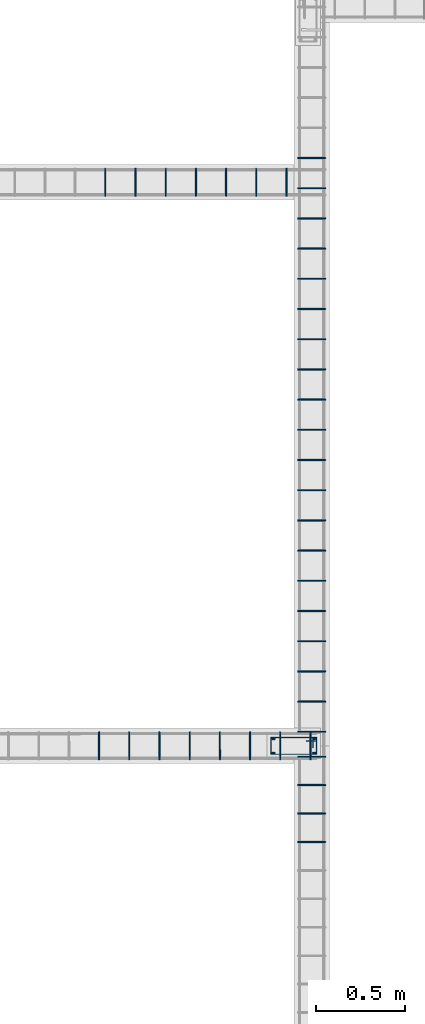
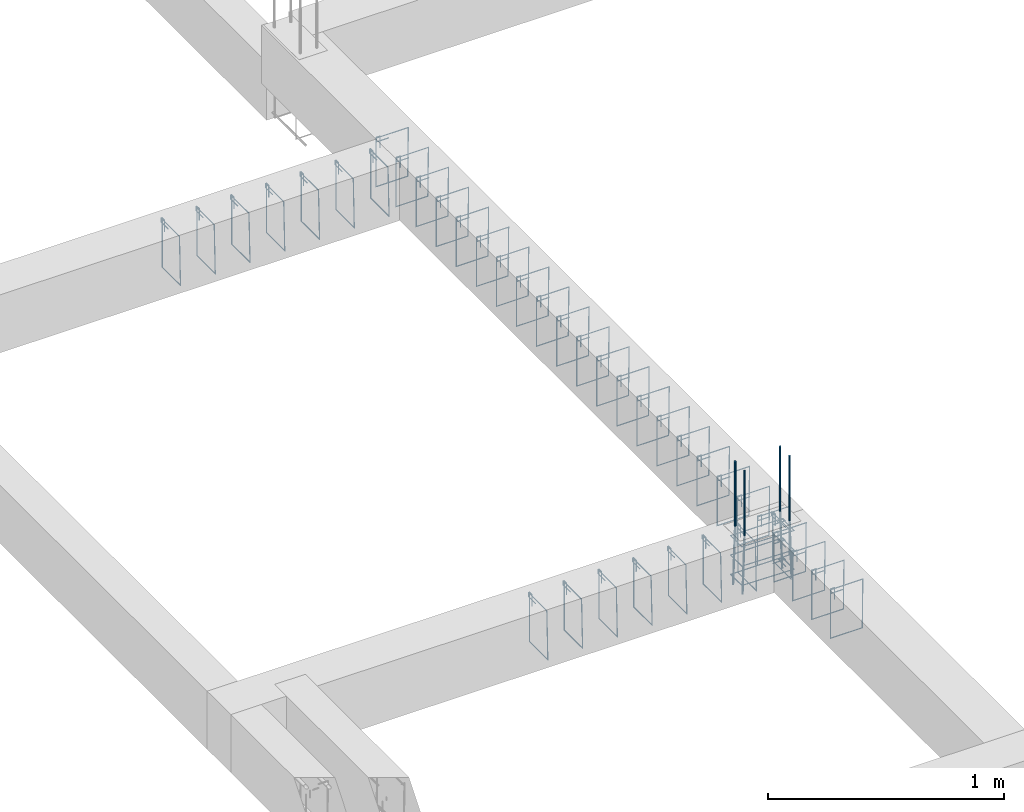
# One storey, part 134 of 150: 46 reinforcing bars.
"""IFC4 building model written with IfcOpenShell, lengths in centimetres."""

from ifc_helpers import new_model, entity, si_unit, derived_unit, frame, origin_with_axes, place, context, project, spatial, source, transform, mapped, element, save


model = new_model("IFC4")

# Units and contexts
model_context = context("Model", 3, precision=1e-05, world=origin_with_axes(), identifier="Body")
ifc_project = project(units=[si_unit("LENGTHUNIT", "METRE", prefix="CENTI"), si_unit("VOLUMEUNIT", "CUBIC_METRE"), si_unit("AREAUNIT", "SQUARE_METRE"), si_unit("POWERUNIT", "WATT"), si_unit("LUMINOUSFLUXUNIT", "LUMEN"), si_unit("ELECTRICCURRENTUNIT", "AMPERE"), si_unit("PRESSUREUNIT", "PASCAL", prefix="KILO"), si_unit("MASSUNIT", "GRAM", prefix="KILO"), si_unit("PLANEANGLEUNIT", "RADIAN"), derived_unit("VOLUMETRICFLOWRATEUNIT", [(si_unit("LENGTHUNIT", "METRE"), 3), (si_unit("TIMEUNIT", "SECOND"), -1)])], contexts=[model_context])

# Site, building, storey
site_placement = place(None, frame((-4000.0, 0.0, 0.0), z_axis=(0.0, 0.0, 1.0), x_axis=(1.0, 0.0, 0.0)))
site = spatial("IfcSite", under=ifc_project, at=site_placement, Name="PADRÃO")
building_placement = place(site_placement, frame((0.0, 0.0, -14.0)))
building = spatial("IfcBuilding", under=site, at=building_placement, Name="CRECHE PRÉ-ESCOLA TIPO 2")
placement = place(building_placement, origin_with_axes())
storey_placement = place(placement, frame((0.0, 0.0, 30.0), z_axis=(0.0, 0.0, 1.0), x_axis=(1.0, 0.0, 0.0)))
storey = spatial("IfcBuildingStorey", under=building, at=storey_placement, Name="VIGA BALDRAME", CompositionType="ELEMENT", Elevation=16.0)

# Reinforcing bars
shared_shape_1 = source(origin_with_axes(), model_context, "Body", "AdvancedSweptSolid", [
    entity("IfcSweptDiskSolid", entity("IfcCompositeCurve", [entity("IfcCompositeCurveSegment", "CONTINUOUS", True, entity("IfcPolyline", [entity("IfcCartesianPoint", [4.25, 21.75, 0.0]), entity("IfcCartesianPoint", [4.25, 27.75, 0.0])])), entity("IfcCompositeCurveSegment", "CONTINUOUS", True, entity("IfcPolyline", [entity("IfcCartesianPoint", [4.25, 27.75, 0.0]), entity("IfcCartesianPoint", [2.25, 27.75, 0.0])])), entity("IfcCompositeCurveSegment", "CONTINUOUS", True, entity("IfcPolyline", [entity("IfcCartesianPoint", [2.25, 27.75, 0.0]), entity("IfcCartesianPoint", [2.25, 2.25, 0.0])])), entity("IfcCompositeCurveSegment", "CONTINUOUS", True, entity("IfcPolyline", [entity("IfcCartesianPoint", [2.25, 2.25, 0.0]), entity("IfcCartesianPoint", [11.75, 2.25, 0.0])])), entity("IfcCompositeCurveSegment", "CONTINUOUS", True, entity("IfcPolyline", [entity("IfcCartesianPoint", [11.75, 2.25, 0.0]), entity("IfcCartesianPoint", [11.75, 27.75, -0.5])])), entity("IfcCompositeCurveSegment", "CONTINUOUS", True, entity("IfcPolyline", [entity("IfcCartesianPoint", [11.75, 27.75, -0.5]), entity("IfcCartesianPoint", [2.25, 27.75, -0.5])])), entity("IfcCompositeCurveSegment", "CONTINUOUS", True, entity("IfcPolyline", [entity("IfcCartesianPoint", [2.25, 27.75, -0.5]), entity("IfcCartesianPoint", [2.25, 25.75, -0.5])])), entity("IfcCompositeCurveSegment", "CONTINUOUS", True, entity("IfcPolyline", [entity("IfcCartesianPoint", [2.25, 25.75, -0.5]), entity("IfcCartesianPoint", [8.25, 25.75, -0.5])]))], False), 0.25),
])
for number, where, z_axis, x_axis, name in (
    (1, (2499.5, 3674.75, -15.0), (0.0, 0.0, 1.0), (0.0, -1.0, 0.0), "P34 - Estribo"),
    (2, (2499.5, 3674.75, -25.0), (0.0, 0.0, 1.0), (0.0, -1.0, 0.0), "P34 - Estribo"),
    (3, (2499.5, 3674.75, -5.0), (0.0, 0.0, 1.0), (0.0, -1.0, 0.0), "P34 - Estribo"),
):
    element("IfcReinforcingBar", number, at=place(storey_placement, frame(where, z_axis=z_axis, x_axis=x_axis)), inside=storey, Name=name, BarLength=0.0, CrossSectionArea=1.9634954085e-05, NominalDiameter=0.5, PredefinedType="MAIN", context=model_context, shape_type="MappedRepresentation", body=[
        mapped(shared_shape_1, transform((0.0, 0.0, 0.0), scale=1.0)),
    ])
shared_shape_2 = source(origin_with_axes(), model_context, "Body", "AdvancedSweptSolid", [
    entity("IfcSweptDiskSolid", entity("IfcCompositeCurve", [entity("IfcCompositeCurveSegment", "CONTINUOUS", True, entity("IfcPolyline", [entity("IfcCartesianPoint", [2.0, -6.0, 0.0]), entity("IfcCartesianPoint", [2.0, 0.0, 0.0])])), entity("IfcCompositeCurveSegment", "CONTINUOUS", True, entity("IfcPolyline", [entity("IfcCartesianPoint", [2.0, 0.0, 0.0]), entity("IfcCartesianPoint", [0.0, 0.0, 0.0])])), entity("IfcCompositeCurveSegment", "CONTINUOUS", True, entity("IfcPolyline", [entity("IfcCartesianPoint", [0.0, 0.0, 0.0]), entity("IfcCartesianPoint", [0.0, -25.5, 0.0])])), entity("IfcCompositeCurveSegment", "CONTINUOUS", True, entity("IfcPolyline", [entity("IfcCartesianPoint", [0.0, -25.5, 0.0]), entity("IfcCartesianPoint", [15.5, -25.5, 0.0])])), entity("IfcCompositeCurveSegment", "CONTINUOUS", True, entity("IfcPolyline", [entity("IfcCartesianPoint", [15.5, -25.5, 0.0]), entity("IfcCartesianPoint", [15.5, 0.0, 0.5])])), entity("IfcCompositeCurveSegment", "CONTINUOUS", True, entity("IfcPolyline", [entity("IfcCartesianPoint", [15.5, 0.0, 0.5]), entity("IfcCartesianPoint", [0.0, 0.0, 0.5])])), entity("IfcCompositeCurveSegment", "CONTINUOUS", True, entity("IfcPolyline", [entity("IfcCartesianPoint", [0.0, 0.0, 0.5]), entity("IfcCartesianPoint", [0.0, -2.0, 0.5])])), entity("IfcCompositeCurveSegment", "CONTINUOUS", True, entity("IfcPolyline", [entity("IfcCartesianPoint", [0.0, -2.0, 0.5]), entity("IfcCartesianPoint", [6.0, -2.0, 0.5])]))], False), 0.25),
])
for number, where, z_axis, x_axis, name in (
    (4, (2524.12928903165, 3675.50227136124, -2.25), (-1.0, -9.222061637e-05, 0.0), (9.222061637e-05, -1.0, 0.0), "V109 - Estribo"),
    (5, (2507.12928910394, 3675.50070361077, -2.25), (-1.0, -9.222061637e-05, 0.0), (9.222061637e-05, -1.0, 0.0), "V109 - Estribo"),
    (6, (2490.12928917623, 3675.49913586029, -2.25), (-1.0, -9.222061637e-05, 0.0), (9.222061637e-05, -1.0, 0.0), "V109 - Estribo"),
    (7, (2473.12928924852, 3675.49756810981, -2.25), (-1.0, -9.222061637e-05, 0.0), (9.222061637e-05, -1.0, 0.0), "V109 - Estribo"),
    (8, (2456.12928932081, 3675.49600035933, -2.25), (-1.0, -9.222061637e-05, 0.0), (9.222061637e-05, -1.0, 0.0), "V109 - Estribo"),
    (9, (2439.1292893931, 3675.49443260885, -2.25), (-1.0, -9.222061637e-05, 0.0), (9.222061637e-05, -1.0, 0.0), "V109 - Estribo"),
    (10, (2405.12928953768, 3675.4912971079, -2.25), (-1.0, -9.222061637e-05, 0.0), (9.222061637e-05, -1.0, 0.0), "V109 - Estribo"),
    (11, (2422.12928946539, 3675.49286485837, -2.25), (-1.0, -9.222061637e-05, 0.0), (9.222061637e-05, -1.0, 0.0), "V109 - Estribo"),
):
    element("IfcReinforcingBar", number, at=place(storey_placement, frame(where, z_axis=z_axis, x_axis=x_axis)), inside=storey, Name=name, BarLength=0.0, CrossSectionArea=1.9634954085e-05, NominalDiameter=0.5, PredefinedType="MAIN", context=model_context, shape_type="MappedRepresentation", body=[
        mapped(shared_shape_2, transform((0.0, 0.0, 0.0), scale=1.0)),
    ])
shared_shape_3 = source(origin_with_axes(), model_context, "Body", "AdvancedSweptSolid", [
    entity("IfcSweptDiskSolid", entity("IfcCompositeCurve", [entity("IfcCompositeCurveSegment", "CONTINUOUS", True, entity("IfcPolyline", [entity("IfcCartesianPoint", [2.0, -6.0, 0.0]), entity("IfcCartesianPoint", [2.0, 0.0, 0.0])])), entity("IfcCompositeCurveSegment", "CONTINUOUS", True, entity("IfcPolyline", [entity("IfcCartesianPoint", [2.0, 0.0, 0.0]), entity("IfcCartesianPoint", [0.0, 0.0, 0.0])])), entity("IfcCompositeCurveSegment", "CONTINUOUS", True, entity("IfcPolyline", [entity("IfcCartesianPoint", [0.0, 0.0, 0.0]), entity("IfcCartesianPoint", [0.0, -25.5, 0.0])])), entity("IfcCompositeCurveSegment", "CONTINUOUS", True, entity("IfcPolyline", [entity("IfcCartesianPoint", [0.0, -25.5, 0.0]), entity("IfcCartesianPoint", [15.5, -25.5, 0.0])])), entity("IfcCompositeCurveSegment", "CONTINUOUS", True, entity("IfcPolyline", [entity("IfcCartesianPoint", [15.5, -25.5, 0.0]), entity("IfcCartesianPoint", [15.5, 0.0, 0.5])])), entity("IfcCompositeCurveSegment", "CONTINUOUS", True, entity("IfcPolyline", [entity("IfcCartesianPoint", [15.5, 0.0, 0.5]), entity("IfcCartesianPoint", [0.0, 0.0, 0.5])])), entity("IfcCompositeCurveSegment", "CONTINUOUS", True, entity("IfcPolyline", [entity("IfcCartesianPoint", [0.0, 0.0, 0.5]), entity("IfcCartesianPoint", [0.0, -2.0, 0.5])])), entity("IfcCompositeCurveSegment", "CONTINUOUS", True, entity("IfcPolyline", [entity("IfcCartesianPoint", [0.0, -2.0, 0.5]), entity("IfcCartesianPoint", [6.0, -2.0, 0.5])]))], False), 0.25),
])
for number, where, z_axis, x_axis, name in (
    (12, (2510.645, 3992.75, -2.25), (-1.0, 0.0, 0.0), (0.0, -1.0, 0.0), "V106 - Estribo"),
    (13, (2425.645, 3992.75, -2.25), (-1.0, 0.0, 0.0), (0.0, -1.0, 0.0), "V106 - Estribo"),
    (14, (2442.645, 3992.75, -2.25), (-1.0, 0.0, 0.0), (0.0, -1.0, 0.0), "V106 - Estribo"),
    (15, (2459.645, 3992.75, -2.25), (-1.0, 0.0, 0.0), (0.0, -1.0, 0.0), "V106 - Estribo"),
    (16, (2476.645, 3992.75, -2.25), (-1.0, 0.0, 0.0), (0.0, -1.0, 0.0), "V106 - Estribo"),
    (17, (2493.645, 3992.75, -2.25), (-1.0, 0.0, 0.0), (0.0, -1.0, 0.0), "V106 - Estribo"),
    (18, (2408.645, 3992.75, -2.25), (-1.0, 0.0, 0.0), (0.0, -1.0, 0.0), "V106 - Estribo"),
):
    element("IfcReinforcingBar", number, at=place(storey_placement, frame(where, z_axis=z_axis, x_axis=x_axis)), inside=storey, Name=name, BarLength=0.0, CrossSectionArea=1.9634954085e-05, NominalDiameter=0.5, PredefinedType="MAIN", context=model_context, shape_type="MappedRepresentation", body=[
        mapped(shared_shape_3, transform((0.0, 0.0, 0.0), scale=1.0)),
    ])
shared_shape_4 = source(origin_with_axes(), model_context, "Body", "AdvancedSweptSolid", [
    entity("IfcSweptDiskSolid", entity("IfcCompositeCurve", [entity("IfcCompositeCurveSegment", "CONTINUOUS", True, entity("IfcPolyline", [entity("IfcCartesianPoint", [2.0, -6.0, 0.0]), entity("IfcCartesianPoint", [2.0, 0.0, 0.0])])), entity("IfcCompositeCurveSegment", "CONTINUOUS", True, entity("IfcPolyline", [entity("IfcCartesianPoint", [2.0, 0.0, 0.0]), entity("IfcCartesianPoint", [0.0, 0.0, 0.0])])), entity("IfcCompositeCurveSegment", "CONTINUOUS", True, entity("IfcPolyline", [entity("IfcCartesianPoint", [0.0, 0.0, 0.0]), entity("IfcCartesianPoint", [0.0, -25.5, 0.0])])), entity("IfcCompositeCurveSegment", "CONTINUOUS", True, entity("IfcPolyline", [entity("IfcCartesianPoint", [0.0, -25.5, 0.0]), entity("IfcCartesianPoint", [15.5, -25.5, 0.0])])), entity("IfcCompositeCurveSegment", "CONTINUOUS", True, entity("IfcPolyline", [entity("IfcCartesianPoint", [15.5, -25.5, 0.0]), entity("IfcCartesianPoint", [15.5, 0.0, 0.5])])), entity("IfcCompositeCurveSegment", "CONTINUOUS", True, entity("IfcPolyline", [entity("IfcCartesianPoint", [15.5, 0.0, 0.5]), entity("IfcCartesianPoint", [0.0, 0.0, 0.5])])), entity("IfcCompositeCurveSegment", "CONTINUOUS", True, entity("IfcPolyline", [entity("IfcCartesianPoint", [0.0, 0.0, 0.5]), entity("IfcCartesianPoint", [0.0, -2.0, 0.5])])), entity("IfcCompositeCurveSegment", "CONTINUOUS", True, entity("IfcPolyline", [entity("IfcCartesianPoint", [0.0, -2.0, 0.5]), entity("IfcCartesianPoint", [6.0, -2.0, 0.5])]))], False), 0.25),
])
for number, where, z_axis, x_axis, name in (
    (19, (2516.78, 3661.885, -2.25), (0.0, -1.0, 0.0), (1.0, 0.0, 0.0), "V199 - Estribo"),
    (20, (2516.78, 3645.885, -2.25), (0.0, -1.0, 0.0), (1.0, 0.0, 0.0), "V199 - Estribo"),
    (21, (2516.78, 3629.885, -2.25), (0.0, -1.0, 0.0), (1.0, 0.0, 0.0), "V199 - Estribo"),
    (22, (2516.78, 3613.885, -2.25), (0.0, -1.0, 0.0), (1.0, 0.0, 0.0), "V199 - Estribo"),
):
    element("IfcReinforcingBar", number, at=place(storey_placement, frame(where, z_axis=z_axis, x_axis=x_axis)), inside=storey, Name=name, BarLength=0.0, CrossSectionArea=1.9634954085e-05, NominalDiameter=0.5, PredefinedType="MAIN", context=model_context, shape_type="MappedRepresentation", body=[
        mapped(shared_shape_4, transform((0.0, 0.0, 0.0), scale=1.0)),
    ])
shared_shape_5 = source(origin_with_axes(), model_context, "Body", "AdvancedSweptSolid", [
    entity("IfcSweptDiskSolid", entity("IfcCompositeCurve", [entity("IfcCompositeCurveSegment", "CONTINUOUS", True, entity("IfcPolyline", [entity("IfcCartesianPoint", [2.0, -6.0, 0.0]), entity("IfcCartesianPoint", [2.0, 0.0, 0.0])])), entity("IfcCompositeCurveSegment", "CONTINUOUS", True, entity("IfcPolyline", [entity("IfcCartesianPoint", [2.0, 0.0, 0.0]), entity("IfcCartesianPoint", [0.0, 0.0, 0.0])])), entity("IfcCompositeCurveSegment", "CONTINUOUS", True, entity("IfcPolyline", [entity("IfcCartesianPoint", [0.0, 0.0, 0.0]), entity("IfcCartesianPoint", [0.0, -25.5, 0.0])])), entity("IfcCompositeCurveSegment", "CONTINUOUS", True, entity("IfcPolyline", [entity("IfcCartesianPoint", [0.0, -25.5, 0.0]), entity("IfcCartesianPoint", [15.5, -25.5, 0.0])])), entity("IfcCompositeCurveSegment", "CONTINUOUS", True, entity("IfcPolyline", [entity("IfcCartesianPoint", [15.5, -25.5, 0.0]), entity("IfcCartesianPoint", [15.5, 0.0, 0.5])])), entity("IfcCompositeCurveSegment", "CONTINUOUS", True, entity("IfcPolyline", [entity("IfcCartesianPoint", [15.5, 0.0, 0.5]), entity("IfcCartesianPoint", [0.0, 0.0, 0.5])])), entity("IfcCompositeCurveSegment", "CONTINUOUS", True, entity("IfcPolyline", [entity("IfcCartesianPoint", [0.0, 0.0, 0.5]), entity("IfcCartesianPoint", [0.0, -2.0, 0.5])])), entity("IfcCompositeCurveSegment", "CONTINUOUS", True, entity("IfcPolyline", [entity("IfcCartesianPoint", [0.0, -2.0, 0.5]), entity("IfcCartesianPoint", [6.0, -2.0, 0.5])]))], False), 0.25),
])
for number, where, z_axis, x_axis, name in (
    (23, (2516.78, 3845.885, -2.25), (0.0, -1.0, 0.0), (1.0, 0.0, 0.0), "V199 - Estribo"),
    (24, (2516.78, 3828.885, -2.25), (0.0, -1.0, 0.0), (1.0, 0.0, 0.0), "V199 - Estribo"),
    (25, (2516.78, 3811.885, -2.25), (0.0, -1.0, 0.0), (1.0, 0.0, 0.0), "V199 - Estribo"),
    (26, (2516.78, 3794.885, -2.25), (0.0, -1.0, 0.0), (1.0, 0.0, 0.0), "V199 - Estribo"),
    (27, (2516.78, 3777.885, -2.25), (0.0, -1.0, 0.0), (1.0, 0.0, 0.0), "V199 - Estribo"),
    (28, (2516.78, 3760.885, -2.25), (0.0, -1.0, 0.0), (1.0, 0.0, 0.0), "V199 - Estribo"),
    (29, (2516.78, 3743.885, -2.25), (0.0, -1.0, 0.0), (1.0, 0.0, 0.0), "V199 - Estribo"),
    (30, (2516.78, 3726.885, -2.25), (0.0, -1.0, 0.0), (1.0, 0.0, 0.0), "V199 - Estribo"),
    (31, (2516.78, 3709.885, -2.25), (0.0, -1.0, 0.0), (1.0, 0.0, 0.0), "V199 - Estribo"),
    (32, (2516.78, 3692.885, -2.25), (0.0, -1.0, 0.0), (1.0, 0.0, 0.0), "V199 - Estribo"),
    (33, (2516.78, 3675.885, -2.25), (0.0, -1.0, 0.0), (1.0, 0.0, 0.0), "V199 - Estribo"),
    (34, (2516.78, 3896.885, -2.25), (0.0, -1.0, 0.0), (1.0, 0.0, 0.0), "V199 - Estribo"),
    (35, (2516.78, 3998.885, -2.25), (0.0, -1.0, 0.0), (1.0, 0.0, 0.0), "V199 - Estribo"),
    (36, (2516.78, 3981.885, -2.25), (0.0, -1.0, 0.0), (1.0, 0.0, 0.0), "V199 - Estribo"),
    (37, (2516.78, 3964.885, -2.25), (0.0, -1.0, 0.0), (1.0, 0.0, 0.0), "V199 - Estribo"),
    (38, (2516.78, 3947.885, -2.25), (0.0, -1.0, 0.0), (1.0, 0.0, 0.0), "V199 - Estribo"),
    (39, (2516.78, 3930.885, -2.25), (0.0, -1.0, 0.0), (1.0, 0.0, 0.0), "V199 - Estribo"),
    (40, (2516.78, 3913.885, -2.25), (0.0, -1.0, 0.0), (1.0, 0.0, 0.0), "V199 - Estribo"),
    (41, (2516.78, 3879.885, -2.25), (0.0, -1.0, 0.0), (1.0, 0.0, 0.0), "V199 - Estribo"),
    (42, (2516.78, 3862.885, -2.25), (0.0, -1.0, 0.0), (1.0, 0.0, 0.0), "V199 - Estribo"),
):
    element("IfcReinforcingBar", number, at=place(storey_placement, frame(where, z_axis=z_axis, x_axis=x_axis)), inside=storey, Name=name, BarLength=0.0, CrossSectionArea=1.9634954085e-05, NominalDiameter=0.5, PredefinedType="MAIN", context=model_context, shape_type="MappedRepresentation", body=[
        mapped(shared_shape_5, transform((0.0, 0.0, 0.0), scale=1.0)),
    ])
for number, where, z_axis, x_axis, name in (
    (43, (2525.99986122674, 3671.75, 33.3573001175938), (0.0, 0.0, 1.0), (1.0, 0.0, 0.0), "P34 - Longitudinal"),
    (44, (2525.99986122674, 3663.75, 33.3573001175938), (0.0, 0.0, 1.0), (1.0, 0.0, 0.0), "P34 - Longitudinal"),
):
    element("IfcReinforcingBar", number, at=place(storey_placement, frame(where, z_axis=z_axis, x_axis=x_axis)), inside=storey, Name=name, BarLength=0.0, CrossSectionArea=7.853981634e-05, NominalDiameter=1.0, PredefinedType="MAIN", context=model_context, shape_type="AdvancedSweptSolid", body=[
        entity("IfcSweptDiskSolid", entity("IfcCompositeCurve", [entity("IfcCompositeCurveSegment", "CONTINUOUS", True, entity("IfcPolyline", [entity("IfcCartesianPoint", [0.500138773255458, 0.0, -63.3573001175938]), entity("IfcCartesianPoint", [-0.499861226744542, 0.0, -33.3573001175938])])), entity("IfcCompositeCurveSegment", "CONTINUOUS", True, entity("IfcPolyline", [entity("IfcCartesianPoint", [-0.499861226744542, 0.0, -33.3573001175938]), entity("IfcCartesianPoint", [-0.499861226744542, 0.0, 0.0])]))], False), 0.5),
    ])
for number, where, z_axis, x_axis, name in (
    (45, (2503.00013877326, 3663.75, 33.3573001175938), (0.0, 0.0, 1.0), (1.0, 0.0, 0.0), "P34 - Longitudinal"),
    (46, (2503.00013877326, 3671.75, 33.3573001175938), (0.0, 0.0, 1.0), (1.0, 0.0, 0.0), "P34 - Longitudinal"),
):
    element("IfcReinforcingBar", number, at=place(storey_placement, frame(where, z_axis=z_axis, x_axis=x_axis)), inside=storey, Name=name, BarLength=0.0, CrossSectionArea=7.853981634e-05, NominalDiameter=1.0, PredefinedType="MAIN", context=model_context, shape_type="AdvancedSweptSolid", body=[
        entity("IfcSweptDiskSolid", entity("IfcCompositeCurve", [entity("IfcCompositeCurveSegment", "CONTINUOUS", True, entity("IfcPolyline", [entity("IfcCartesianPoint", [-0.500138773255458, 0.0, -63.3573001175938]), entity("IfcCartesianPoint", [0.499861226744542, 0.0, -33.3573001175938])])), entity("IfcCompositeCurveSegment", "CONTINUOUS", True, entity("IfcPolyline", [entity("IfcCartesianPoint", [0.499861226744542, 0.0, -33.3573001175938]), entity("IfcCartesianPoint", [0.499861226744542, 0.0, 0.0])]))], False), 0.5),
    ])

save(model, "model.ifc")
